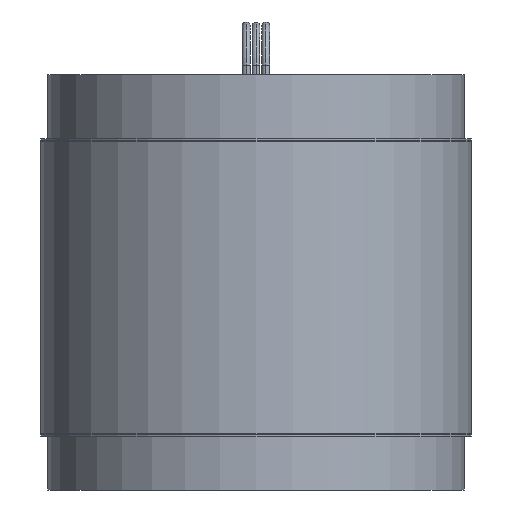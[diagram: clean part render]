
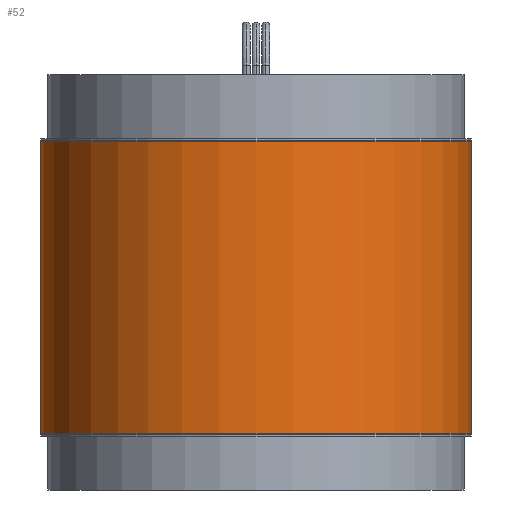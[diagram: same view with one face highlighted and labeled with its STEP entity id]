
A CAD part, front view. The second image highlights one B-rep face of the part: STEP entity #52.
In plain terms, the highlighted cylindrical face has radius 55.88 mm (diameter 111.76 mm), a partial arc.
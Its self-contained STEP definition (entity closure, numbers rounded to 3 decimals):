
#27 = AXIS2_PLACEMENT_3D ( 'NONE', #29, #1547, #2154 ) ;
#29 = CARTESIAN_POINT ( 'NONE',  ( 0., 0., 37.922 ) ) ;
#52 = ADVANCED_FACE ( 'NONE', ( #610 ), #2303, .T. ) ;
#58 = DIRECTION ( 'NONE',  ( 1., 0., 0. ) ) ;
#108 = CARTESIAN_POINT ( 'NONE',  ( -55.88, 0., -38.608 ) ) ;
#119 = CIRCLE ( 'NONE', #27, 55.88 ) ;
#169 = AXIS2_PLACEMENT_3D ( 'NONE', #2376, #1187, #221 ) ;
#197 = CARTESIAN_POINT ( 'NONE',  ( -55.88, 0., -37.922 ) ) ;
#221 = DIRECTION ( 'NONE',  ( 1., 0., 0. ) ) ;
#234 = VECTOR ( 'NONE', #1659, 1000. ) ;
#261 = VERTEX_POINT ( 'NONE', #669 ) ;
#267 = AXIS2_PLACEMENT_3D ( 'NONE', #1421, #2000, #58 ) ;
#557 = EDGE_LOOP ( 'NONE', ( #665, #1656, #2348, #1610 ) ) ;
#610 = FACE_OUTER_BOUND ( 'NONE', #557, .T. ) ;
#665 = ORIENTED_EDGE ( 'NONE', *, *, #2454, .F. ) ;
#669 = CARTESIAN_POINT ( 'NONE',  ( -55.88, 0., 37.922 ) ) ;
#691 = EDGE_CURVE ( 'NONE', #261, #810, #119, .T. ) ;
#810 = VERTEX_POINT ( 'NONE', #2200 ) ;
#822 = VECTOR ( 'NONE', #1500, 1000. ) ;
#967 = EDGE_CURVE ( 'NONE', #2066, #1466, #2108, .T. ) ;
#1187 = DIRECTION ( 'NONE',  ( 0., 0., 1. ) ) ;
#1334 = LINE ( 'NONE', #2288, #822 ) ;
#1421 = CARTESIAN_POINT ( 'NONE',  ( 0., 0., -38.608 ) ) ;
#1422 = LINE ( 'NONE', #108, #234 ) ;
#1466 = VERTEX_POINT ( 'NONE', #1782 ) ;
#1500 = DIRECTION ( 'NONE',  ( 0., 0., 1. ) ) ;
#1547 = DIRECTION ( 'NONE',  ( 0., 0., 1. ) ) ;
#1610 = ORIENTED_EDGE ( 'NONE', *, *, #691, .F. ) ;
#1656 = ORIENTED_EDGE ( 'NONE', *, *, #967, .T. ) ;
#1659 = DIRECTION ( 'NONE',  ( 0., 0., 1. ) ) ;
#1782 = CARTESIAN_POINT ( 'NONE',  ( 55.88, 0., -37.922 ) ) ;
#1954 = EDGE_CURVE ( 'NONE', #1466, #810, #1334, .T. ) ;
#2000 = DIRECTION ( 'NONE',  ( 0., 0., 1. ) ) ;
#2066 = VERTEX_POINT ( 'NONE', #197 ) ;
#2108 = CIRCLE ( 'NONE', #169, 55.88 ) ;
#2154 = DIRECTION ( 'NONE',  ( 1., 0., 0. ) ) ;
#2200 = CARTESIAN_POINT ( 'NONE',  ( 55.88, 0., 37.922 ) ) ;
#2288 = CARTESIAN_POINT ( 'NONE',  ( 55.88, 0., -38.608 ) ) ;
#2303 = CYLINDRICAL_SURFACE ( 'NONE', #267, 55.88 ) ;
#2348 = ORIENTED_EDGE ( 'NONE', *, *, #1954, .T. ) ;
#2376 = CARTESIAN_POINT ( 'NONE',  ( 0., 0., -37.922 ) ) ;
#2454 = EDGE_CURVE ( 'NONE', #2066, #261, #1422, .T. ) ;
